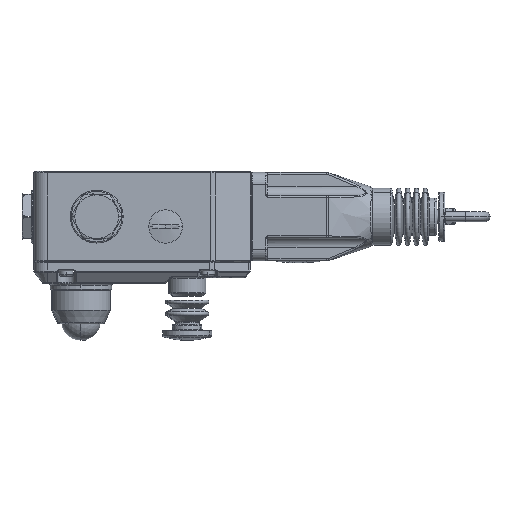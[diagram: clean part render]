
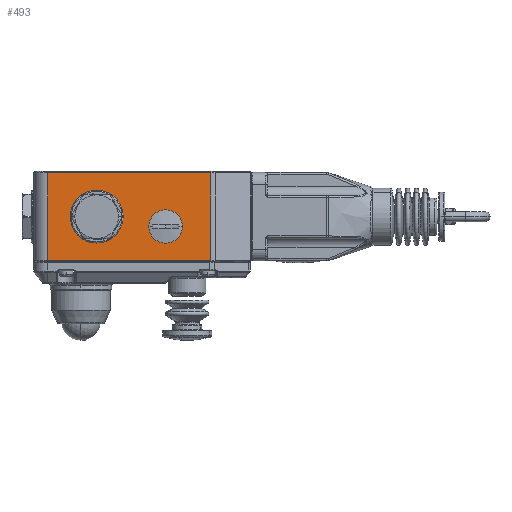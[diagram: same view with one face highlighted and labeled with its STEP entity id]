
A CAD part, left-side view. The second image highlights one B-rep face of the part: STEP entity #493.
In plain terms, the highlighted planar face has unit normal (-1, 0, 0).
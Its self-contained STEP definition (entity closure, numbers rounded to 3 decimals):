
#493 = ADVANCED_FACE ( 'NONE', ( #9572, #9586, #9590 ), #25213, .F. ) ;
#1372 = AXIS2_PLACEMENT_3D ( 'NONE', #25211, #25216, #25218 ) ;
#9125 = EDGE_LOOP ( 'NONE', ( #19532, #37284 ) ) ;
#9572 = FACE_BOUND ( 'NONE', #9125, .T. ) ;
#9586 = FACE_BOUND ( 'NONE', #24926, .T. ) ;
#9590 = FACE_OUTER_BOUND ( 'NONE', #24918, .T. ) ;
#10476 = EDGE_CURVE ( 'NONE', #15265, #15725, #27758, .T. ) ;
#10514 = EDGE_CURVE ( 'NONE', #15642, #15266, #27810, .T. ) ;
#10534 = EDGE_CURVE ( 'NONE', #15901, #15265, #27833, .T. ) ;
#10536 = EDGE_CURVE ( 'NONE', #15725, #15861, #27827, .T. ) ;
#10538 = EDGE_CURVE ( 'NONE', #15573, #19268, #27841, .T. ) ;
#10540 = EDGE_CURVE ( 'NONE', #19268, #15573, #27843, .T. ) ;
#10542 = EDGE_CURVE ( 'NONE', #15266, #15642, #27847, .T. ) ;
#10546 = EDGE_CURVE ( 'NONE', #15861, #15901, #27846, .T. ) ;
#15265 = VERTEX_POINT ( 'NONE', #33158 ) ;
#15266 = VERTEX_POINT ( 'NONE', #33159 ) ;
#15573 = VERTEX_POINT ( 'NONE', #33398 ) ;
#15642 = VERTEX_POINT ( 'NONE', #33439 ) ;
#15725 = VERTEX_POINT ( 'NONE', #33484 ) ;
#15861 = VERTEX_POINT ( 'NONE', #33555 ) ;
#15901 = VERTEX_POINT ( 'NONE', #33580 ) ;
#19268 = VERTEX_POINT ( 'NONE', #35107 ) ;
#19532 = ORIENTED_EDGE ( 'NONE', *, *, #10540, .T. ) ;
#19533 = ORIENTED_EDGE ( 'NONE', *, *, #10476, .T. ) ;
#19560 = ORIENTED_EDGE ( 'NONE', *, *, #10536, .T. ) ;
#19565 = ORIENTED_EDGE ( 'NONE', *, *, #10546, .T. ) ;
#19583 = ORIENTED_EDGE ( 'NONE', *, *, #10514, .T. ) ;
#19584 = ORIENTED_EDGE ( 'NONE', *, *, #10534, .T. ) ;
#24918 = EDGE_LOOP ( 'NONE', ( #19584, #19533, #19560, #19565 ) ) ;
#24926 = EDGE_LOOP ( 'NONE', ( #37234, #19583 ) ) ;
#25211 = CARTESIAN_POINT ( 'NONE',  ( 0., 0., 46. ) ) ;
#25213 = PLANE ( 'NONE',  #1372 ) ;
#25216 = DIRECTION ( 'NONE',  ( 1., 0., 0. ) ) ;
#25218 = DIRECTION ( 'NONE',  ( 0., 1., 0. ) ) ;
#27758 = LINE ( 'NONE', #32753, #27759 ) ;
#27759 = VECTOR ( 'NONE', #32754, 1000. ) ;
#27810 = CIRCLE ( 'NONE', #28574, 6.7 ) ;
#27821 = VECTOR ( 'NONE', #32915, 1000. ) ;
#27827 = LINE ( 'NONE', #32914, #27837 ) ;
#27833 = LINE ( 'NONE', #32909, #27821 ) ;
#27837 = VECTOR ( 'NONE', #32920, 1000. ) ;
#27841 = CIRCLE ( 'NONE', #28609, 11. ) ;
#27843 = CIRCLE ( 'NONE', #28616, 11. ) ;
#27844 = VECTOR ( 'NONE', #32947, 1000. ) ;
#27846 = LINE ( 'NONE', #32946, #27844 ) ;
#27847 = CIRCLE ( 'NONE', #28618, 6.7 ) ;
#28574 = AXIS2_PLACEMENT_3D ( 'NONE', #32858, #32859, #32860 ) ;
#28609 = AXIS2_PLACEMENT_3D ( 'NONE', #32916, #32925, #32926 ) ;
#28616 = AXIS2_PLACEMENT_3D ( 'NONE', #32927, #32930, #32931 ) ;
#28618 = AXIS2_PLACEMENT_3D ( 'NONE', #32929, #32936, #32937 ) ;
#32753 = CARTESIAN_POINT ( 'NONE',  ( 0., 0., 0.7 ) ) ;
#32754 = DIRECTION ( 'NONE',  ( 0., -1., 0. ) ) ;
#32858 = CARTESIAN_POINT ( 'NONE',  ( 0., -67., 18. ) ) ;
#32859 = DIRECTION ( 'NONE',  ( 1., 0., 0. ) ) ;
#32860 = DIRECTION ( 'NONE',  ( 0., 1., 0. ) ) ;
#32909 = CARTESIAN_POINT ( 'NONE',  ( 0., -7., 46. ) ) ;
#32914 = CARTESIAN_POINT ( 'NONE',  ( 0., -90.091, 46. ) ) ;
#32915 = DIRECTION ( 'NONE',  ( 0., 0., -1. ) ) ;
#32916 = CARTESIAN_POINT ( 'NONE',  ( 0., -32., 23. ) ) ;
#32920 = DIRECTION ( 'NONE',  ( 0., 0., 1. ) ) ;
#32925 = DIRECTION ( 'NONE',  ( 1., 0., 0. ) ) ;
#32926 = DIRECTION ( 'NONE',  ( 0., 1., 0. ) ) ;
#32927 = CARTESIAN_POINT ( 'NONE',  ( 0., -32., 23. ) ) ;
#32929 = CARTESIAN_POINT ( 'NONE',  ( 0., -67., 18. ) ) ;
#32930 = DIRECTION ( 'NONE',  ( 1., 0., 0. ) ) ;
#32931 = DIRECTION ( 'NONE',  ( 0., 1., 0. ) ) ;
#32936 = DIRECTION ( 'NONE',  ( 1., 0., 0. ) ) ;
#32937 = DIRECTION ( 'NONE',  ( 0., 1., 0. ) ) ;
#32946 = CARTESIAN_POINT ( 'NONE',  ( 0., -7., 45.3 ) ) ;
#32947 = DIRECTION ( 'NONE',  ( 0., 1., 0. ) ) ;
#33158 = CARTESIAN_POINT ( 'NONE',  ( 0., -7., 0.7 ) ) ;
#33159 = CARTESIAN_POINT ( 'NONE',  ( 0., -60.3, 18. ) ) ;
#33398 = CARTESIAN_POINT ( 'NONE',  ( 0., -43., 23. ) ) ;
#33439 = CARTESIAN_POINT ( 'NONE',  ( 0., -73.7, 18. ) ) ;
#33484 = CARTESIAN_POINT ( 'NONE',  ( 0., -90.091, 0.7 ) ) ;
#33555 = CARTESIAN_POINT ( 'NONE',  ( 0., -90.091, 45.3 ) ) ;
#33580 = CARTESIAN_POINT ( 'NONE',  ( 0., -7., 45.3 ) ) ;
#35107 = CARTESIAN_POINT ( 'NONE',  ( 0., -21., 23. ) ) ;
#37234 = ORIENTED_EDGE ( 'NONE', *, *, #10542, .T. ) ;
#37284 = ORIENTED_EDGE ( 'NONE', *, *, #10538, .T. ) ;
